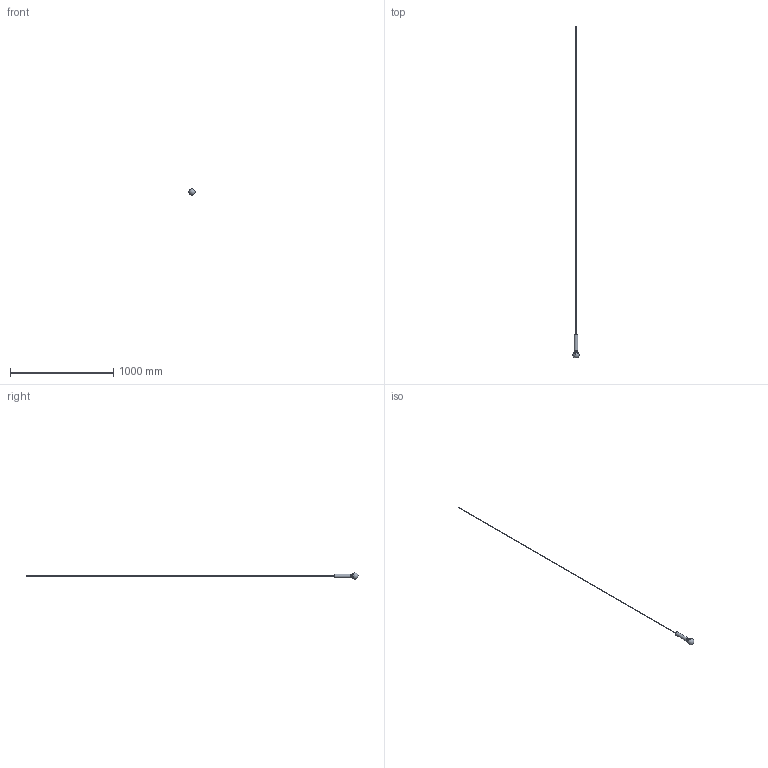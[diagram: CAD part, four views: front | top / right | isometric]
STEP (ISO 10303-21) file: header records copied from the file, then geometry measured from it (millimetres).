
FILE_DESCRIPTION(/* description */ (''),/* implementation_level */ '2;1');
FILE_NAME(/* name */ 'LED IS MORE 2.stp',/* time_stamp */ '2025-02-04T09:03:18+01:00',/* author */ ('n.bisotti'),/* organization */ (''),/* preprocessor_version */ 'ST-DEVELOPER v19.2',/* originating_system */ 'Autodesk Inventor 2023',/* authorisation */ '');
FILE_SCHEMA (('AUTOMOTIVE_DESIGN { 1 0 10303 214 3 1 1 }'));
Length unit declared in the file: centimetre
Products named in the file (1): 1761 - LED IS MORE 1
Bounding box: 59.78 x 3221.78 x 60 mm (x, y, z)
Surface area: 77416.4 mm2 (no closed solid volume)
Topology: 0 solids, 1 shells, 11 faces, 23 edges, 15 vertices
Faces by surface type: cylinder 4, plane 3, cone 2, torus 1, sphere 1
Full cylindrical faces by diameter (mm): 5 x1, 5.5 x1, 35 x2
Entity records: 375 total; most frequent: DIRECTION 60, CARTESIAN_POINT 48, ORIENTED_EDGE 41, AXIS2_PLACEMENT_3D 27, EDGE_CURVE 21, EDGE_LOOP 15, CIRCLE 15, VERTEX_POINT 15
